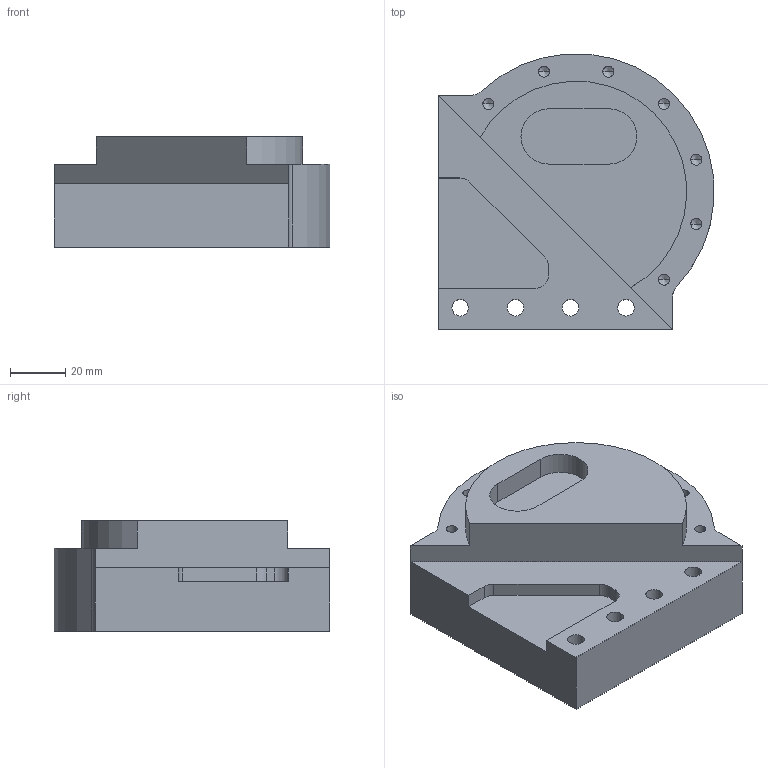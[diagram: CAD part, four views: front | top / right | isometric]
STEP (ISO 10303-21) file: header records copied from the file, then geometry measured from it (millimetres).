
FILE_DESCRIPTION((' '),'2;1');
FILE_NAME( 'Test 2.STEP', '2021-07-01T12:40:19', (' '), ('--- Datakit www.datakit.com---'), ' Datakit CrossCadWare V2021.1 Dec 21 2020', 'GO2cam V6.08', ' ');
FILE_SCHEMA(('AUTOMOTIVE_DESIGN { 1 0 10303 214 1 1 1 1 }'));
Length unit declared in the file: millimetre
Products named in the file (1): part
Bounding box: 99.87 x 99.87 x 40 mm (x, y, z)
Volume: 253266.1 mm3; surface area: 34424.5 mm2
Topology: 1 solids, 1 shells, 62 faces, 178 edges, 127 vertices
Faces by surface type: bspline 45, plane 17
Entity records: 2123 total; most frequent: CARTESIAN_POINT 647, ORIENTED_EDGE 294, DIRECTION 268, EDGE_CURVE 147, VERTEX_POINT 95, VECTOR 94, LINE 94, AXIS2_PLACEMENT_3D 87
